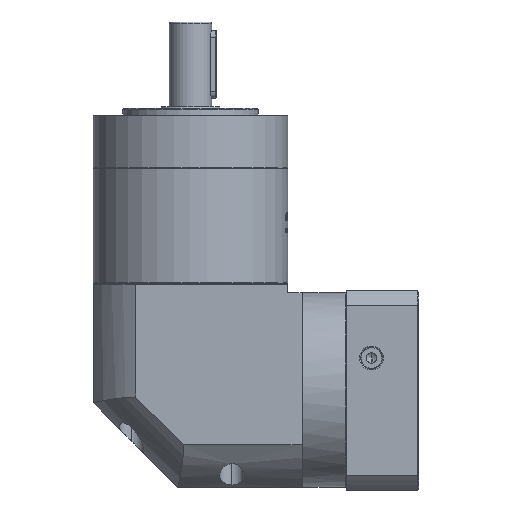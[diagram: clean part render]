
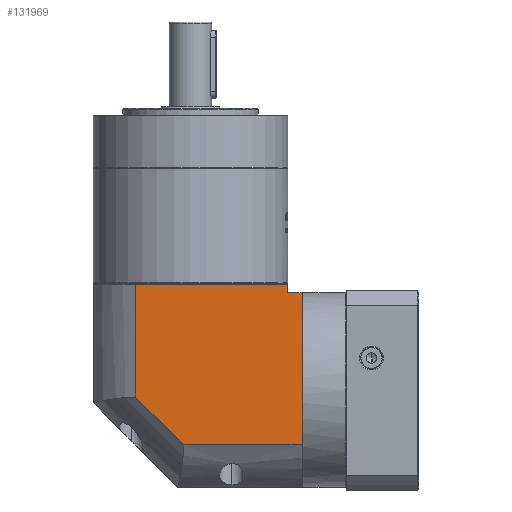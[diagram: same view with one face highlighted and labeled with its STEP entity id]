
A CAD part, left-side view. The second image highlights one B-rep face of the part: STEP entity #131969.
In plain terms, the highlighted planar face has unit normal (-1, 0, 0).
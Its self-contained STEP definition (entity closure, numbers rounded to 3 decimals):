
#2414 = AXIS2_PLACEMENT_3D ( 'NONE', #126848, #169103, #140910 ) ;
#8210 = DIRECTION ( 'NONE',  ( 0., 0., 1. ) ) ;
#16210 = ORIENTED_EDGE ( 'NONE', *, *, #115069, .F. ) ;
#16960 = DIRECTION ( 'NONE',  ( 0., 0., 1. ) ) ;
#19842 = CARTESIAN_POINT ( 'NONE',  ( -266.143, -75.116, 40.639 ) ) ;
#24746 = DIRECTION ( 'NONE',  ( 0., 1., 0. ) ) ;
#28361 = EDGE_CURVE ( 'NONE', #170276, #35153, #90305, .T. ) ;
#28771 = CARTESIAN_POINT ( 'NONE',  ( -266.143, -13.554, -54.261 ) ) ;
#35153 = VERTEX_POINT ( 'NONE', #143791 ) ;
#37553 = LINE ( 'NONE', #92276, #164807 ) ;
#39676 = DIRECTION ( 'NONE',  ( 0., 0.707, 0.707 ) ) ;
#39933 = LINE ( 'NONE', #137562, #96953 ) ;
#40481 = VECTOR ( 'NONE', #112271, 1000. ) ;
#44101 = ORIENTED_EDGE ( 'NONE', *, *, #28361, .F. ) ;
#44363 = FACE_OUTER_BOUND ( 'NONE', #74467, .T. ) ;
#48467 = LINE ( 'NONE', #108774, #120826 ) ;
#50533 = ORIENTED_EDGE ( 'NONE', *, *, #62047, .F. ) ;
#53675 = EDGE_CURVE ( 'NONE', #142562, #66736, #37553, .T. ) ;
#53740 = EDGE_CURVE ( 'NONE', #57609, #109897, #48467, .T. ) ;
#55282 = CARTESIAN_POINT ( 'NONE',  ( -266.143, 39.884, 40.639 ) ) ;
#57609 = VERTEX_POINT ( 'NONE', #114479 ) ;
#61601 = DIRECTION ( 'NONE',  ( 0., 0., -1. ) ) ;
#62047 = EDGE_CURVE ( 'NONE', #109897, #170276, #116908, .T. ) ;
#65577 = ORIENTED_EDGE ( 'NONE', *, *, #65697, .T. ) ;
#65697 = EDGE_CURVE ( 'NONE', #107521, #142562, #39933, .T. ) ;
#66736 = VERTEX_POINT ( 'NONE', #19842 ) ;
#68269 = DIRECTION ( 'NONE',  ( 0., 1., 0. ) ) ;
#74090 = ORIENTED_EDGE ( 'NONE', *, *, #53740, .F. ) ;
#74467 = EDGE_LOOP ( 'NONE', ( #44101, #50533, #74090, #80526, #65577, #178139, #16210 ) ) ;
#80526 = ORIENTED_EDGE ( 'NONE', *, *, #142722, .F. ) ;
#82055 = CARTESIAN_POINT ( 'NONE',  ( -266.143, -13.554, -54.261 ) ) ;
#84594 = CARTESIAN_POINT ( 'NONE',  ( -266.143, 14.784, 47.139 ) ) ;
#88709 = LINE ( 'NONE', #55282, #40481 ) ;
#90305 = LINE ( 'NONE', #84594, #169284 ) ;
#92276 = CARTESIAN_POINT ( 'NONE',  ( -266.143, -75.116, -79.361 ) ) ;
#96953 = VECTOR ( 'NONE', #68269, 1000. ) ;
#105123 = CARTESIAN_POINT ( 'NONE',  ( -266.143, 14.784, -25.923 ) ) ;
#107521 = VERTEX_POINT ( 'NONE', #158244 ) ;
#108774 = CARTESIAN_POINT ( 'NONE',  ( -266.143, 39.884, -54.261 ) ) ;
#109895 = VECTOR ( 'NONE', #61601, 1000. ) ;
#109897 = VERTEX_POINT ( 'NONE', #28771 ) ;
#110929 = PLANE ( 'NONE',  #2414 ) ;
#112271 = DIRECTION ( 'NONE',  ( 0., -1., 0. ) ) ;
#114479 = CARTESIAN_POINT ( 'NONE',  ( -266.143, -83.516, -54.261 ) ) ;
#115069 = EDGE_CURVE ( 'NONE', #35153, #66736, #88709, .T. ) ;
#116908 = LINE ( 'NONE', #82055, #149774 ) ;
#118602 = CARTESIAN_POINT ( 'NONE',  ( -266.143, -83.516, 47.139 ) ) ;
#120810 = LINE ( 'NONE', #118602, #109895 ) ;
#120826 = VECTOR ( 'NONE', #24746, 1000. ) ;
#123873 = CARTESIAN_POINT ( 'NONE',  ( -266.143, -75.116, 35.639 ) ) ;
#126848 = CARTESIAN_POINT ( 'NONE',  ( -266.143, 39.884, 47.139 ) ) ;
#131969 = ADVANCED_FACE ( 'NONE', ( #44363 ), #110929, .F. ) ;
#137562 = CARTESIAN_POINT ( 'NONE',  ( -266.143, -75.116, 35.639 ) ) ;
#140910 = DIRECTION ( 'NONE',  ( 0., 1., 0. ) ) ;
#142562 = VERTEX_POINT ( 'NONE', #123873 ) ;
#142722 = EDGE_CURVE ( 'NONE', #107521, #57609, #120810, .T. ) ;
#143791 = CARTESIAN_POINT ( 'NONE',  ( -266.143, 14.784, 40.639 ) ) ;
#149774 = VECTOR ( 'NONE', #39676, 1000. ) ;
#158244 = CARTESIAN_POINT ( 'NONE',  ( -266.143, -83.516, 35.639 ) ) ;
#164807 = VECTOR ( 'NONE', #8210, 1000. ) ;
#169103 = DIRECTION ( 'NONE',  ( 1., 0., 0. ) ) ;
#169284 = VECTOR ( 'NONE', #16960, 1000. ) ;
#170276 = VERTEX_POINT ( 'NONE', #105123 ) ;
#178139 = ORIENTED_EDGE ( 'NONE', *, *, #53675, .T. ) ;
